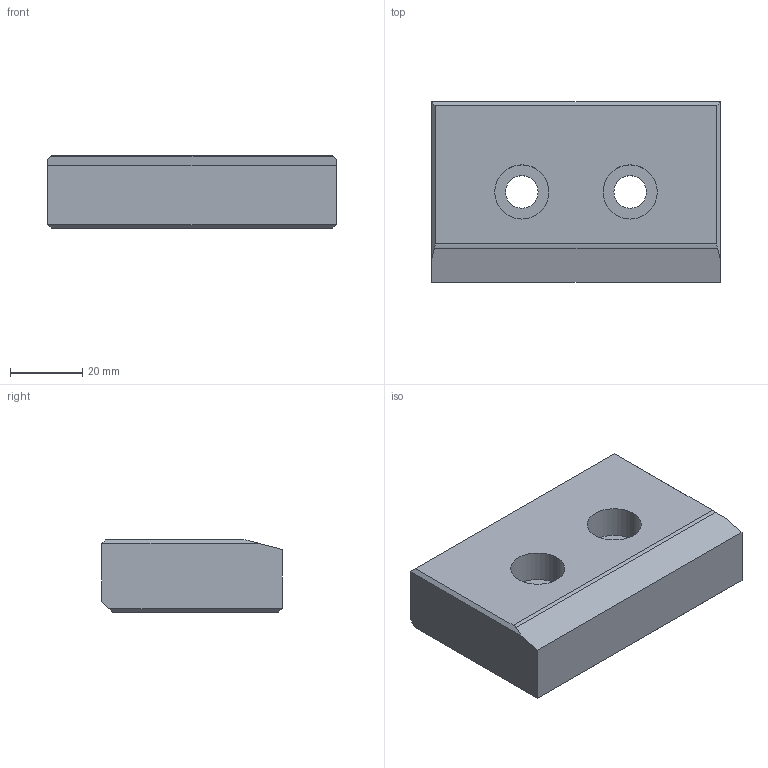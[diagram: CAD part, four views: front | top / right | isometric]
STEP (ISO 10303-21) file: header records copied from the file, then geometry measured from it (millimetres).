
FILE_DESCRIPTION (( 'STEP AP214' ), '1' );
FILE_NAME ('SW225-01-80x50.STEP', '2020-10-21T09:59:31', ( 'August' ), ( '' ), 'SwSTEP 2.0', 'SolidWorks 2018', '' );
FILE_SCHEMA (( 'AUTOMOTIVE_DESIGN' ));
Length unit declared in the file: millimetre
Products named in the file (1): SW225-01-80x50
Bounding box: 80 x 50 x 20 mm (x, y, z)
Volume: 73819 mm3; surface area: 13852 mm2
Topology: 1 solids, 1 shells, 25 faces, 59 edges, 38 vertices
Faces by surface type: plane 16, cylinder 9
Entity records: 765 total; most frequent: CARTESIAN_POINT 133, DIRECTION 125, ORIENTED_EDGE 118, EDGE_CURVE 59, AXIS2_PLACEMENT_3D 42, LINE 41, VECTOR 41, VERTEX_POINT 38
